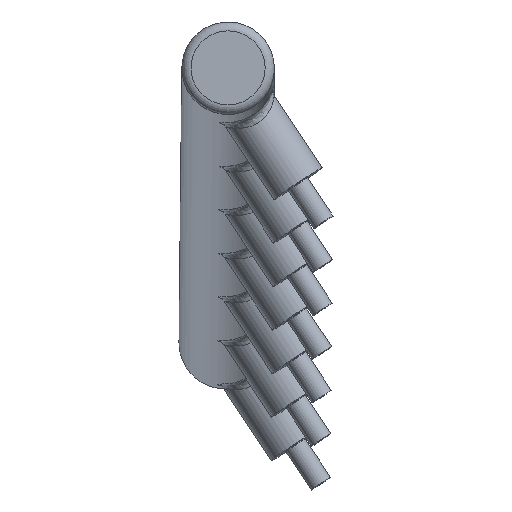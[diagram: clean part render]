
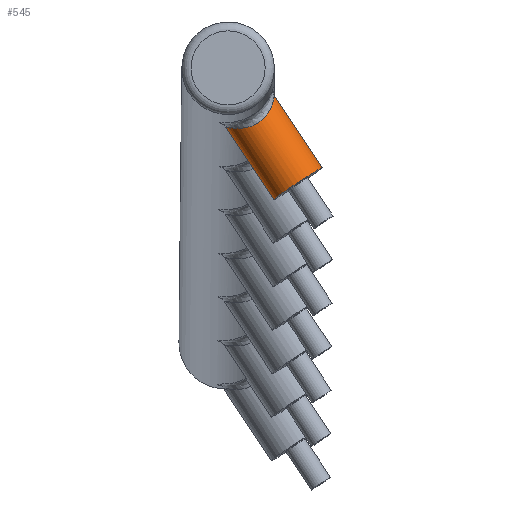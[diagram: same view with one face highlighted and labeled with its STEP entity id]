
A CAD part, left-side view. The second image highlights one B-rep face of the part: STEP entity #545.
In plain terms, the highlighted cylindrical face has radius 0.625 mm (diameter 1.25 mm), a full revolution.
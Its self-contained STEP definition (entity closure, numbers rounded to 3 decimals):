
#59=LINE('',#1939,#74);
#74=VECTOR('',#753,0.6);
#89=CYLINDRICAL_SURFACE('',#617,0.625);
#123=FACE_OUTER_BOUND('',#169,.T.);
#169=EDGE_LOOP('',(#470,#471,#472,#473,#474));
#204=B_SPLINE_CURVE_WITH_KNOTS('',3,(#1890,#1891,#1892,#1893,#1894,#1895,
#1896,#1897,#1898,#1899,#1900,#1901,#1902,#1903,#1904,#1905,#1906),
 .UNSPECIFIED.,.F.,.F.,(4,1,1,1,1,1,1,1,1,1,1,1,1,1,4),(0.,0.028,
0.056,0.084,0.111,0.125,
0.139,0.16,0.167,0.195,
0.223,0.237,0.251,0.279,
0.283),.UNSPECIFIED.);
#205=B_SPLINE_CURVE_WITH_KNOTS('',3,(#1907,#1908,#1909,#1910,#1911,#1912,
#1913,#1914),.UNSPECIFIED.,.F.,.F.,(4,1,1,1,1,4),(0.283,0.306,
0.334,0.348,0.362,0.39),
 .UNSPECIFIED.);
#232=CIRCLE('',#618,0.625);
#280=VERTEX_POINT('',#1887);
#281=VERTEX_POINT('',#1889);
#282=VERTEX_POINT('',#1937);
#346=EDGE_CURVE('',#280,#281,#204,.T.);
#347=EDGE_CURVE('',#281,#280,#205,.T.);
#349=EDGE_CURVE('',#282,#282,#232,.T.);
#350=EDGE_CURVE('',#282,#281,#59,.T.);
#470=ORIENTED_EDGE('',*,*,#349,.F.);
#471=ORIENTED_EDGE('',*,*,#350,.T.);
#472=ORIENTED_EDGE('',*,*,#346,.F.);
#473=ORIENTED_EDGE('',*,*,#347,.F.);
#474=ORIENTED_EDGE('',*,*,#350,.F.);
#545=ADVANCED_FACE('',(#123),#89,.T.);
#617=AXIS2_PLACEMENT_3D('',#1936,#749,#750);
#618=AXIS2_PLACEMENT_3D('',#1938,#751,#752);
#749=DIRECTION('center_axis',(-0.035,-0.549,-0.835));
#750=DIRECTION('ref_axis',(0.99,-0.135,0.046));
#751=DIRECTION('center_axis',(-0.035,-0.549,-0.835));
#752=DIRECTION('ref_axis',(0.99,-0.135,0.046));
#753=DIRECTION('',(0.035,0.549,0.835));
#1887=CARTESIAN_POINT('',(-178.72,50.25,68.737));
#1889=CARTESIAN_POINT('',(-179.365,50.68,68.096));
#1890=CARTESIAN_POINT('Ctrl Pts',(-178.72,50.25,68.737));
#1891=CARTESIAN_POINT('Ctrl Pts',(-178.623,50.25,68.733));
#1892=CARTESIAN_POINT('Ctrl Pts',(-178.438,50.255,68.646));
#1893=CARTESIAN_POINT('Ctrl Pts',(-178.235,50.312,68.414));
#1894=CARTESIAN_POINT('Ctrl Pts',(-178.114,50.463,68.172));
#1895=CARTESIAN_POINT('Ctrl Pts',(-178.12,50.673,68.032));
#1896=CARTESIAN_POINT('Ctrl Pts',(-178.188,50.855,67.986));
#1897=CARTESIAN_POINT('Ctrl Pts',(-178.276,51.009,67.976));
#1898=CARTESIAN_POINT('Ctrl Pts',(-178.377,51.125,67.993));
#1899=CARTESIAN_POINT('Ctrl Pts',(-178.534,51.249,68.025));
#1900=CARTESIAN_POINT('Ctrl Pts',(-178.75,51.331,68.063));
#1901=CARTESIAN_POINT('Ctrl Pts',(-178.992,51.239,68.041));
#1902=CARTESIAN_POINT('Ctrl Pts',(-179.145,51.106,68.022));
#1903=CARTESIAN_POINT('Ctrl Pts',(-179.274,50.947,68.018));
#1904=CARTESIAN_POINT('Ctrl Pts',(-179.344,50.794,68.045));
#1905=CARTESIAN_POINT('Ctrl Pts',(-179.363,50.693,68.089));
#1906=CARTESIAN_POINT('Ctrl Pts',(-179.365,50.68,68.096));
#1907=CARTESIAN_POINT('Ctrl Pts',(-179.365,50.68,68.096));
#1908=CARTESIAN_POINT('Ctrl Pts',(-179.377,50.606,68.131));
#1909=CARTESIAN_POINT('Ctrl Pts',(-179.366,50.454,68.237));
#1910=CARTESIAN_POINT('Ctrl Pts',(-179.255,50.337,68.419));
#1911=CARTESIAN_POINT('Ctrl Pts',(-179.12,50.283,68.563));
#1912=CARTESIAN_POINT('Ctrl Pts',(-178.962,50.253,68.689));
#1913=CARTESIAN_POINT('Ctrl Pts',(-178.817,50.25,68.741));
#1914=CARTESIAN_POINT('Ctrl Pts',(-178.72,50.25,68.737));
#1936=CARTESIAN_POINT('Origin',(-178.745,50.618,68.16));
#1937=CARTESIAN_POINT('',(-179.42,49.825,66.796));
#1938=CARTESIAN_POINT('Origin',(-178.802,49.741,66.825));
#1939=CARTESIAN_POINT('',(-179.364,50.702,68.131));
